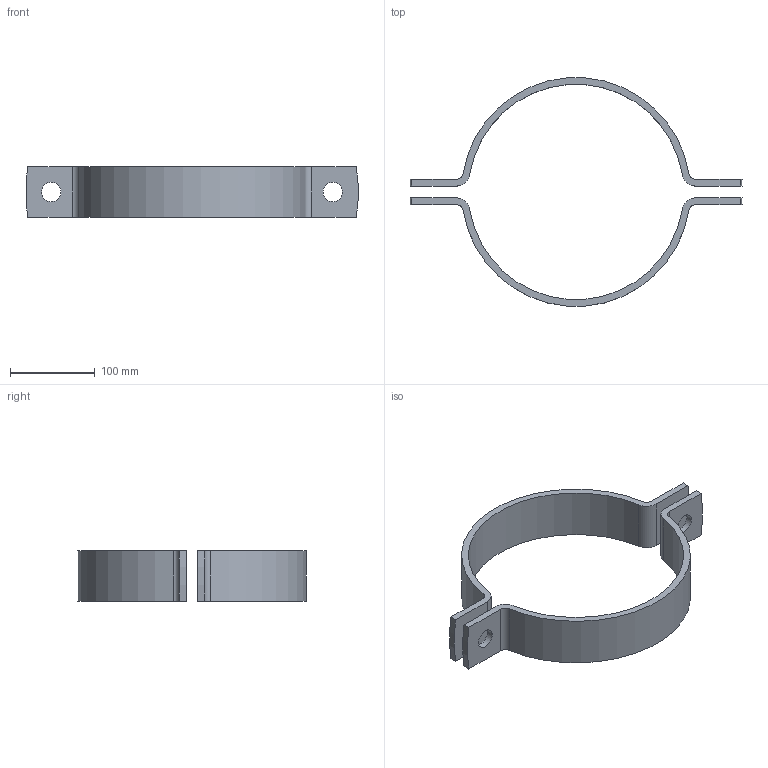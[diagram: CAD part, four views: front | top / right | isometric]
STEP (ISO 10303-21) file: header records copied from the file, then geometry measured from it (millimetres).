
FILE_DESCRIPTION (( 'STEP AP203' ), '1' );
FILE_NAME ('NW250-254 (DIN 3567).STEP', '2023-12-08T11:35:26', ( '' ), ( '' ), 'SwSTEP 2.0', 'SolidWorks 2023', '' );
FILE_SCHEMA (( 'CONFIG_CONTROL_DESIGN' ));
Length unit declared in the file: millimetre
Products named in the file (1): NW250-254 (DIN 3567)
Bounding box: 391.49 x 269.07 x 60 mm (x, y, z)
Volume: 477490 mm3; surface area: 139873.1 mm2
Topology: 2 solids, 2 shells, 36 faces, 96 edges, 64 vertices
Faces by surface type: cylinder 24, plane 12
Entity records: 1239 total; most frequent: DIRECTION 218, CARTESIAN_POINT 197, ORIENTED_EDGE 192, EDGE_CURVE 96, AXIS2_PLACEMENT_3D 85, VERTEX_POINT 64, CIRCLE 48, VECTOR 48
